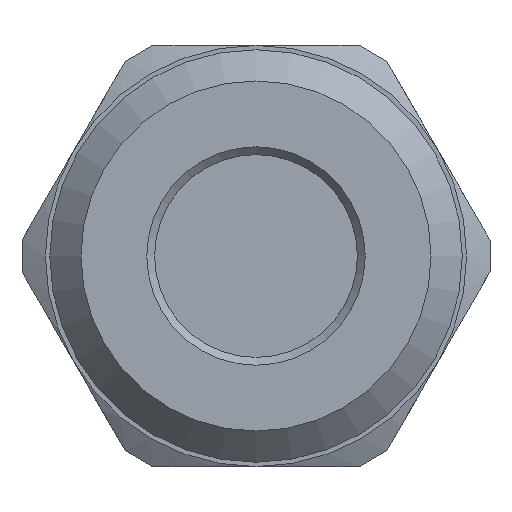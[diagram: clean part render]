
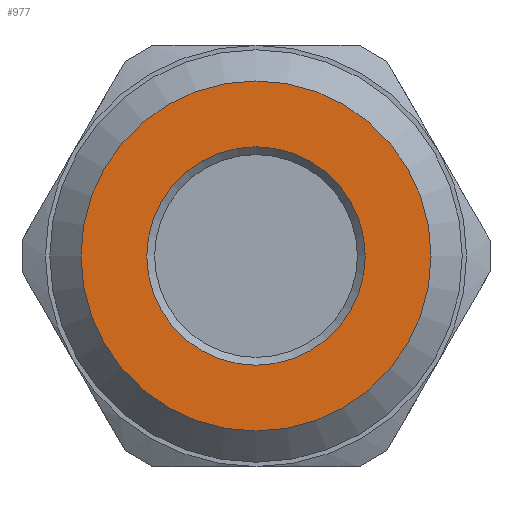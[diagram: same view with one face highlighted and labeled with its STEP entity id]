
A CAD part, front view. The second image highlights one B-rep face of the part: STEP entity #977.
In plain terms, the highlighted planar face has unit normal (0, -1, 0).
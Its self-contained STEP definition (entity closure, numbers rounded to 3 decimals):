
#203=FACE_BOUND('',#328,.T.);
#219=PLANE('',#1079);
#264=FACE_OUTER_BOUND('',#327,.T.);
#327=EDGE_LOOP('',(#725));
#328=EDGE_LOOP('',(#726));
#398=CIRCLE('',#1078,7.);
#399=CIRCLE('',#1080,11.221);
#443=VERTEX_POINT('',#1479);
#444=VERTEX_POINT('',#1483);
#551=EDGE_CURVE('',#443,#443,#398,.T.);
#552=EDGE_CURVE('',#444,#444,#399,.T.);
#725=ORIENTED_EDGE('',*,*,#552,.F.);
#726=ORIENTED_EDGE('',*,*,#551,.F.);
#977=ADVANCED_FACE('',(#264,#203),#219,.T.);
#1078=AXIS2_PLACEMENT_3D('',#1481,#1234,#1235);
#1079=AXIS2_PLACEMENT_3D('',#1482,#1236,#1237);
#1080=AXIS2_PLACEMENT_3D('',#1484,#1238,#1239);
#1234=DIRECTION('center_axis',(0.,-1.,0.));
#1235=DIRECTION('ref_axis',(-1.,0.,0.));
#1236=DIRECTION('center_axis',(0.,-1.,0.));
#1237=DIRECTION('ref_axis',(0.,0.,-1.));
#1238=DIRECTION('center_axis',(0.,1.,0.));
#1239=DIRECTION('ref_axis',(-1.,0.,0.));
#1479=CARTESIAN_POINT('',(7.,0.,0.));
#1481=CARTESIAN_POINT('Origin',(0.,0.,0.));
#1482=CARTESIAN_POINT('Origin',(6.5,0.,0.));
#1483=CARTESIAN_POINT('',(11.221,0.,0.));
#1484=CARTESIAN_POINT('Origin',(0.,0.,0.));
